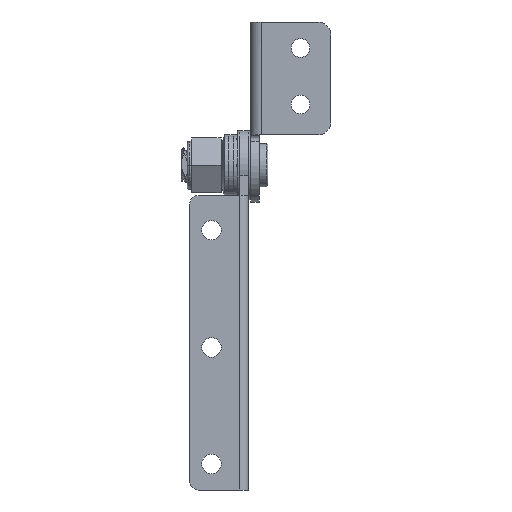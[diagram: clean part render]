
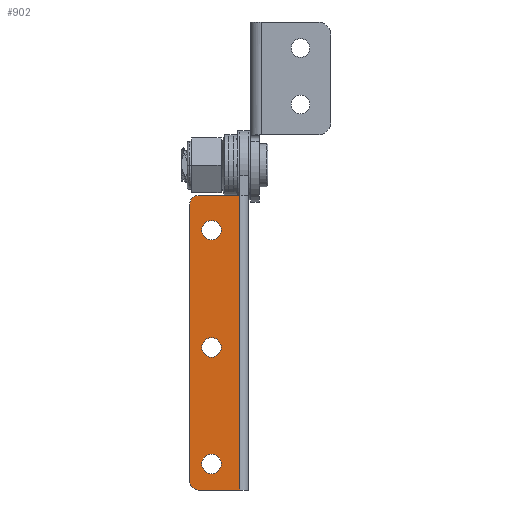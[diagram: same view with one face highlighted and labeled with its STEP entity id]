
A CAD part, front view. The second image highlights one B-rep face of the part: STEP entity #902.
In plain terms, the highlighted planar face has unit normal (0, -1, 0).
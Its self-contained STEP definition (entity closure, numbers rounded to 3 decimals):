
#286 = VERTEX_POINT ( 'NONE', #2157 ) ;
#434 = CARTESIAN_POINT ( 'NONE',  ( -8.951, -0.011, -47.96 ) ) ;
#436 = VERTEX_POINT ( 'NONE', #5595 ) ;
#529 = CARTESIAN_POINT ( 'NONE',  ( -8.951, -0.011, -72.71 ) ) ;
#642 = EDGE_LOOP ( 'NONE', ( #5267, #6635 ) ) ;
#752 = DIRECTION ( 'NONE',  ( 0., 1., 0. ) ) ;
#902 = ADVANCED_FACE ( 'NONE', ( #4825, #8045, #1340, #2228 ), #9765, .F. ) ;
#1092 = DIRECTION ( 'NONE',  ( 0., 0., 1. ) ) ;
#1257 = DIRECTION ( 'NONE',  ( 0., 0., 1. ) ) ;
#1305 = CARTESIAN_POINT ( 'NONE',  ( -2.451, -0.011, -107.81 ) ) ;
#1340 = FACE_BOUND ( 'NONE', #642, .T. ) ;
#1474 = CARTESIAN_POINT ( 'NONE',  ( -8.951, -0.011, -74.96 ) ) ;
#1641 = EDGE_CURVE ( 'NONE', #436, #5401, #2815, .T. ) ;
#1962 = EDGE_CURVE ( 'NONE', #10467, #9509, #3170, .T. ) ;
#1974 = ORIENTED_EDGE ( 'NONE', *, *, #10693, .T. ) ;
#2142 = DIRECTION ( 'NONE',  ( 0., 0., -1. ) ) ;
#2157 = CARTESIAN_POINT ( 'NONE',  ( -11.951, -0.011, -39.96 ) ) ;
#2191 = VERTEX_POINT ( 'NONE', #4909 ) ;
#2228 = FACE_OUTER_BOUND ( 'NONE', #6644, .T. ) ;
#2250 = CARTESIAN_POINT ( 'NONE',  ( -11.951, -0.011, -39.96 ) ) ;
#2306 = CARTESIAN_POINT ( 'NONE',  ( -13.951, -0.011, -105.81 ) ) ;
#2330 = DIRECTION ( 'NONE',  ( 0., 1., 0. ) ) ;
#2406 = DIRECTION ( 'NONE',  ( 1., 0., 0. ) ) ;
#2663 = LINE ( 'NONE', #3605, #3345 ) ;
#2751 = DIRECTION ( 'NONE',  ( 0., 1., 0. ) ) ;
#2815 = CIRCLE ( 'NONE', #4056, 2.25 ) ;
#2888 = AXIS2_PLACEMENT_3D ( 'NONE', #10799, #2330, #3938 ) ;
#3026 = DIRECTION ( 'NONE',  ( 0., 1., 0. ) ) ;
#3048 = CARTESIAN_POINT ( 'NONE',  ( -8.951, -0.011, -45.71 ) ) ;
#3071 = AXIS2_PLACEMENT_3D ( 'NONE', #1474, #4855, #8233 ) ;
#3099 = VERTEX_POINT ( 'NONE', #10808 ) ;
#3170 = CIRCLE ( 'NONE', #9375, 2.25 ) ;
#3233 = VECTOR ( 'NONE', #4850, 1000. ) ;
#3272 = EDGE_CURVE ( 'NONE', #286, #2191, #7711, .T. ) ;
#3345 = VECTOR ( 'NONE', #10146, 1000. ) ;
#3408 = CARTESIAN_POINT ( 'NONE',  ( -8.951, -0.011, -104.06 ) ) ;
#3605 = CARTESIAN_POINT ( 'NONE',  ( -2.451, -0.011, -107.81 ) ) ;
#3795 = VERTEX_POINT ( 'NONE', #2306 ) ;
#3907 = DIRECTION ( 'NONE',  ( 0., 1., 0. ) ) ;
#3938 = DIRECTION ( 'NONE',  ( 0., 0., -1. ) ) ;
#3951 = DIRECTION ( 'NONE',  ( -1., 0., 0. ) ) ;
#3984 = VERTEX_POINT ( 'NONE', #7482 ) ;
#4055 = CARTESIAN_POINT ( 'NONE',  ( -11.951, -0.011, -105.81 ) ) ;
#4056 = AXIS2_PLACEMENT_3D ( 'NONE', #10232, #2751, #1092 ) ;
#4191 = ORIENTED_EDGE ( 'NONE', *, *, #5868, .F. ) ;
#4303 = AXIS2_PLACEMENT_3D ( 'NONE', #8338, #752, #10876 ) ;
#4325 = CARTESIAN_POINT ( 'NONE',  ( -2.451, -0.011, -107.81 ) ) ;
#4665 = VERTEX_POINT ( 'NONE', #6577 ) ;
#4723 = ORIENTED_EDGE ( 'NONE', *, *, #7142, .T. ) ;
#4825 = FACE_BOUND ( 'NONE', #5035, .T. ) ;
#4829 = ORIENTED_EDGE ( 'NONE', *, *, #8899, .T. ) ;
#4850 = DIRECTION ( 'NONE',  ( -1., 0., 0. ) ) ;
#4855 = DIRECTION ( 'NONE',  ( 0., 1., 0. ) ) ;
#4909 = CARTESIAN_POINT ( 'NONE',  ( -13.951, -0.011, -41.96 ) ) ;
#5022 = VERTEX_POINT ( 'NONE', #4325 ) ;
#5027 = DIRECTION ( 'NONE',  ( 0., -1., 0. ) ) ;
#5035 = EDGE_LOOP ( 'NONE', ( #5040, #5045 ) ) ;
#5040 = ORIENTED_EDGE ( 'NONE', *, *, #5617, .T. ) ;
#5045 = ORIENTED_EDGE ( 'NONE', *, *, #1962, .T. ) ;
#5267 = ORIENTED_EDGE ( 'NONE', *, *, #9441, .T. ) ;
#5401 = VERTEX_POINT ( 'NONE', #3408 ) ;
#5443 = LINE ( 'NONE', #8922, #10079 ) ;
#5595 = CARTESIAN_POINT ( 'NONE',  ( -8.951, -0.011, -99.56 ) ) ;
#5617 = EDGE_CURVE ( 'NONE', #9509, #10467, #8729, .T. ) ;
#5681 = DIRECTION ( 'NONE',  ( 0., 0., -1. ) ) ;
#5769 = AXIS2_PLACEMENT_3D ( 'NONE', #10885, #5027, #6638 ) ;
#5868 = EDGE_CURVE ( 'NONE', #286, #3984, #9165, .T. ) ;
#6208 = DIRECTION ( 'NONE',  ( 0., 0., 1. ) ) ;
#6256 = AXIS2_PLACEMENT_3D ( 'NONE', #4055, #8270, #3951 ) ;
#6449 = EDGE_CURVE ( 'NONE', #7375, #3099, #8375, .T. ) ;
#6577 = CARTESIAN_POINT ( 'NONE',  ( -11.951, -0.011, -107.81 ) ) ;
#6589 = ORIENTED_EDGE ( 'NONE', *, *, #9387, .F. ) ;
#6635 = ORIENTED_EDGE ( 'NONE', *, *, #6449, .T. ) ;
#6638 = DIRECTION ( 'NONE',  ( 0., 0., 1. ) ) ;
#6644 = EDGE_LOOP ( 'NONE', ( #6589, #4829, #4191, #7360, #9436, #1974 ) ) ;
#7142 = EDGE_CURVE ( 'NONE', #5401, #436, #8559, .T. ) ;
#7360 = ORIENTED_EDGE ( 'NONE', *, *, #3272, .T. ) ;
#7375 = VERTEX_POINT ( 'NONE', #529 ) ;
#7482 = CARTESIAN_POINT ( 'NONE',  ( -2.451, -0.011, -39.96 ) ) ;
#7711 = CIRCLE ( 'NONE', #5769, 2. ) ;
#7883 = CARTESIAN_POINT ( 'NONE',  ( -8.951, -0.011, -50.21 ) ) ;
#8012 = AXIS2_PLACEMENT_3D ( 'NONE', #9514, #8892, #2142 ) ;
#8045 = FACE_BOUND ( 'NONE', #10954, .T. ) ;
#8229 = CARTESIAN_POINT ( 'NONE',  ( -8.951, -0.011, -74.96 ) ) ;
#8233 = DIRECTION ( 'NONE',  ( 0., 0., 1. ) ) ;
#8270 = DIRECTION ( 'NONE',  ( 0., -1., 0. ) ) ;
#8338 = CARTESIAN_POINT ( 'NONE',  ( -8.951, -0.011, -101.81 ) ) ;
#8375 = CIRCLE ( 'NONE', #3071, 2.25 ) ;
#8559 = CIRCLE ( 'NONE', #4303, 2.25 ) ;
#8721 = CIRCLE ( 'NONE', #9962, 2.25 ) ;
#8729 = CIRCLE ( 'NONE', #8012, 2.25 ) ;
#8889 = LINE ( 'NONE', #1305, #3233 ) ;
#8892 = DIRECTION ( 'NONE',  ( 0., 1., 0. ) ) ;
#8899 = EDGE_CURVE ( 'NONE', #5022, #3984, #2663, .T. ) ;
#8922 = CARTESIAN_POINT ( 'NONE',  ( -13.951, -0.011, -105.81 ) ) ;
#9032 = EDGE_CURVE ( 'NONE', #3795, #2191, #5443, .T. ) ;
#9082 = VECTOR ( 'NONE', #2406, 1000. ) ;
#9165 = LINE ( 'NONE', #2250, #9082 ) ;
#9375 = AXIS2_PLACEMENT_3D ( 'NONE', #434, #3026, #1257 ) ;
#9387 = EDGE_CURVE ( 'NONE', #5022, #4665, #8889, .T. ) ;
#9413 = ORIENTED_EDGE ( 'NONE', *, *, #1641, .T. ) ;
#9436 = ORIENTED_EDGE ( 'NONE', *, *, #9032, .F. ) ;
#9441 = EDGE_CURVE ( 'NONE', #3099, #7375, #8721, .T. ) ;
#9443 = CIRCLE ( 'NONE', #6256, 2. ) ;
#9509 = VERTEX_POINT ( 'NONE', #7883 ) ;
#9514 = CARTESIAN_POINT ( 'NONE',  ( -8.951, -0.011, -47.96 ) ) ;
#9765 = PLANE ( 'NONE',  #2888 ) ;
#9962 = AXIS2_PLACEMENT_3D ( 'NONE', #8229, #3907, #5681 ) ;
#10079 = VECTOR ( 'NONE', #6208, 1000. ) ;
#10146 = DIRECTION ( 'NONE',  ( 0., 0., 1. ) ) ;
#10232 = CARTESIAN_POINT ( 'NONE',  ( -8.951, -0.011, -101.81 ) ) ;
#10467 = VERTEX_POINT ( 'NONE', #3048 ) ;
#10693 = EDGE_CURVE ( 'NONE', #3795, #4665, #9443, .T. ) ;
#10799 = CARTESIAN_POINT ( 'NONE',  ( -0.451, -0.011, -73.885 ) ) ;
#10808 = CARTESIAN_POINT ( 'NONE',  ( -8.951, -0.011, -77.21 ) ) ;
#10876 = DIRECTION ( 'NONE',  ( 0., 0., -1. ) ) ;
#10885 = CARTESIAN_POINT ( 'NONE',  ( -11.951, -0.011, -41.96 ) ) ;
#10954 = EDGE_LOOP ( 'NONE', ( #4723, #9413 ) ) ;
